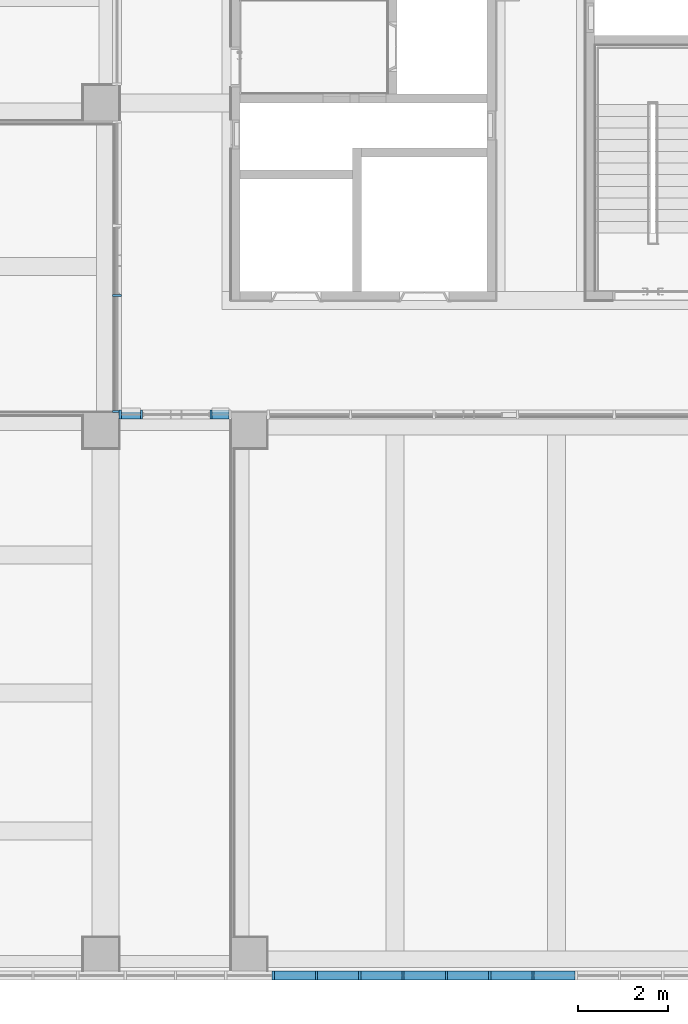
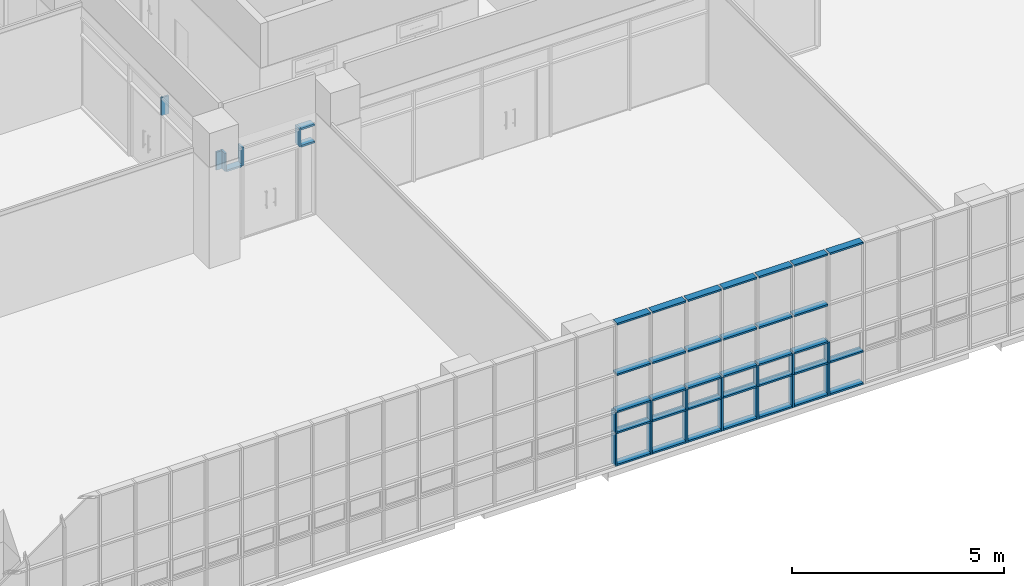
# One storey, part 15 of 76: 55 members, 3 elements without a shape of their own.
"""IFC2X3 building model written with IfcOpenShell, lengths in millimetres."""

from ifc_helpers import new_model, entity, si_unit, converted_unit, derived_unit, direction, frame, origin, origin_2d_with_axis, place, context, subcontext, project, spatial, rectangle, extrude, source, transform, mapped, material, type_object, type_shapes, element, aggregate, save


model = new_model("IFC2X3")

# Units and contexts
model_context = context("Model", 3, precision=0.01, world=origin(), true_north=direction((6.123031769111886e-17, 1.0)))
body_context = subcontext(model_context, "Body", "Model", "MODEL_VIEW")
ifc_project = project(units=[si_unit("LENGTHUNIT", "METRE", prefix="MILLI"), si_unit("AREAUNIT", "SQUARE_METRE"), si_unit("VOLUMEUNIT", "CUBIC_METRE"), converted_unit("PLANEANGLEUNIT", "DEGREE", entity("IfcRatioMeasure", 0.017453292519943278), si_unit("PLANEANGLEUNIT", "RADIAN"), dimensions=[0, 0, 0, 0, 0, 0, 0]), si_unit("MASSUNIT", "GRAM", prefix="KILO"), derived_unit("MASSDENSITYUNIT", [(si_unit("MASSUNIT", "GRAM", prefix="KILO"), 1), (si_unit("LENGTHUNIT", "METRE"), -3)]), derived_unit("MOMENTOFINERTIAUNIT", [(si_unit("LENGTHUNIT", "METRE"), 4)]), si_unit("TIMEUNIT", "SECOND"), si_unit("FREQUENCYUNIT", "HERTZ"), si_unit("THERMODYNAMICTEMPERATUREUNIT", "DEGREE_CELSIUS"), derived_unit("THERMALTRANSMITTANCEUNIT", [(si_unit("MASSUNIT", "GRAM", prefix="KILO"), 1), (si_unit("THERMODYNAMICTEMPERATUREUNIT", "KELVIN"), -1), (si_unit("TIMEUNIT", "SECOND"), -3)]), derived_unit("VOLUMETRICFLOWRATEUNIT", [(si_unit("LENGTHUNIT", "METRE"), 3), (si_unit("TIMEUNIT", "SECOND"), -1)]), derived_unit("MASSFLOWRATEUNIT", [(si_unit("MASSUNIT", "GRAM", prefix="KILO"), 1), (si_unit("TIMEUNIT", "SECOND"), -1)]), derived_unit("ROTATIONALFREQUENCYUNIT", [(si_unit("TIMEUNIT", "SECOND"), -1)]), si_unit("ELECTRICCURRENTUNIT", "AMPERE"), si_unit("ELECTRICVOLTAGEUNIT", "VOLT"), si_unit("POWERUNIT", "WATT"), si_unit("FORCEUNIT", "NEWTON", prefix="KILO"), si_unit("ILLUMINANCEUNIT", "LUX"), si_unit("LUMINOUSFLUXUNIT", "LUMEN"), si_unit("LUMINOUSINTENSITYUNIT", "CANDELA"), derived_unit("USERDEFINED", [(si_unit("MASSUNIT", "GRAM", prefix="KILO"), -1), (si_unit("LENGTHUNIT", "METRE"), -2), (si_unit("TIMEUNIT", "SECOND"), 3), (si_unit("LUMINOUSFLUXUNIT", "LUMEN"), 1)]), derived_unit("SOUNDPOWERUNIT", [(si_unit("MASSUNIT", "GRAM", prefix="KILO"), 1), (si_unit("LENGTHUNIT", "METRE"), 2), (si_unit("TIMEUNIT", "SECOND"), -3)]), derived_unit("SOUNDPRESSUREUNIT", [(si_unit("MASSUNIT", "GRAM", prefix="KILO"), 1), (si_unit("LENGTHUNIT", "METRE"), -1), (si_unit("TIMEUNIT", "SECOND"), -2)]), derived_unit("LINEARVELOCITYUNIT", [(si_unit("LENGTHUNIT", "METRE"), 1), (si_unit("TIMEUNIT", "SECOND"), -1)]), si_unit("PRESSUREUNIT", "PASCAL"), derived_unit("USERDEFINED", [(si_unit("LENGTHUNIT", "METRE"), -2), (si_unit("MASSUNIT", "GRAM", prefix="KILO"), 1), (si_unit("TIMEUNIT", "SECOND"), -2)]), derived_unit("LINEARFORCEUNIT", [(si_unit("MASSUNIT", "GRAM", prefix="KILO"), 1), (si_unit("LENGTHUNIT", "METRE"), 1), (si_unit("TIMEUNIT", "SECOND"), -2), (si_unit("LENGTHUNIT", "METRE"), -1)]), derived_unit("PLANARFORCEUNIT", [(si_unit("MASSUNIT", "GRAM", prefix="KILO"), 1), (si_unit("LENGTHUNIT", "METRE"), 1), (si_unit("TIMEUNIT", "SECOND"), -2), (si_unit("LENGTHUNIT", "METRE"), -2)])], contexts=[model_context])

# Site, building, storey
site_placement = place(None, frame((-14167.972527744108, -657.2125860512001, 0.0)))
site = spatial("IfcSite", under=ifc_project, at=site_placement, Name="Default", CompositionType="ELEMENT")
building_placement = place(site_placement, origin())
building = spatial("IfcBuilding", under=site, at=building_placement, Name="Sample Building", CompositionType="ELEMENT")
storey_placement = place(building_placement, frame((0.0, 0.0, 9300.0)))
storey = spatial("IfcBuildingStorey", under=building, at=storey_placement, Name="지상 3층", CompositionType="ELEMENT", Elevation=9300.000000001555)

# Curtain wall, members
curtain_wall_type = type_object("IfcCurtainWallType", Name="커튼월:CW112-스테인리스 스틸 커튼월", PredefinedType="NOTDEFINED")
curtain_wall_1_placement = place(storey_placement, frame((0.0, 0.0, -9300.0)))
curtain_wall_1 = element("IfcCurtainWall", 1, at=curtain_wall_1_placement, inside=storey, type_object=curtain_wall_type, Name="커튼월:CW112-스테인리스 스틸 커튼월", ObjectType="커튼월:CW112-스테인리스 스틸 커튼월")
ifc_material = material(Name="<Unnamed>")
member_type_1 = type_object("IfcMemberType", Name="직사각형 멀리언:CW200-직사각형 멀리언 50x200mm", PredefinedType="MULLION", material=ifc_material)
shared_shape_1 = source(origin(), body_context, "Body", "SweptSolid", [
    extrude(rectangle(XDim=200.0, YDim=50.0, at=origin_2d_with_axis()), frame((0.0, 0.0, -600.0), z_axis=(0.0, 0.0, 1.0), x_axis=(0.0, -1.0, 0.0)), (0.0, 0.0, 1.0), 600.0),
])
type_shapes(member_type_1, [shared_shape_1])
member_1_placement = place(curtain_wall_1_placement, frame((31005.156070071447, 507.2122951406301, 10330.0), z_axis=(0.0, 0.0, -1.0), x_axis=(1.0, 0.0, 0.0)))
member_1 = element("IfcMember", 2, at=member_1_placement, type_object=member_type_1, material=ifc_material, Name="직사각형 멀리언:CW200-직사각형 멀리언 50x200mm", ObjectType="직사각형 멀리언:CW200-직사각형 멀리언 50x200mm", context=body_context, shape_type="MappedRepresentation", body=[
    mapped(shared_shape_1, transform((0.0, 0.0, 0.0), scale=1.0)),
])
member_2_placement = place(curtain_wall_1_placement, frame((31970.156070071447, 507.21229514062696, 10330.0), z_axis=(0.0, 0.0, -1.0), x_axis=(1.0, 0.0, 0.0)))
member_2 = element("IfcMember", 3, at=member_2_placement, type_object=member_type_1, material=ifc_material, Name="직사각형 멀리언:CW200-직사각형 멀리언 50x200mm", ObjectType="직사각형 멀리언:CW200-직사각형 멀리언 50x200mm", context=body_context, shape_type="MappedRepresentation", body=[
    mapped(shared_shape_1, transform((0.0, 0.0, 0.0), scale=1.0)),
])
member_3_placement = place(curtain_wall_1_placement, frame((32935.156070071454, 507.2122951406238, 10330.0), z_axis=(0.0, 0.0, -1.0), x_axis=(1.0, 0.0, 0.0)))
member_3 = element("IfcMember", 4, at=member_3_placement, type_object=member_type_1, material=ifc_material, Name="직사각형 멀리언:CW200-직사각형 멀리언 50x200mm", ObjectType="직사각형 멀리언:CW200-직사각형 멀리언 50x200mm", context=body_context, shape_type="MappedRepresentation", body=[
    mapped(shared_shape_1, transform((0.0, 0.0, 0.0), scale=1.0)),
])
member_4_placement = place(curtain_wall_1_placement, frame((33900.156070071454, 507.2122951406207, 10330.0), z_axis=(0.0, 0.0, -1.0), x_axis=(1.0, 0.0, 0.0)))
member_4 = element("IfcMember", 5, at=member_4_placement, type_object=member_type_1, material=ifc_material, Name="직사각형 멀리언:CW200-직사각형 멀리언 50x200mm", ObjectType="직사각형 멀리언:CW200-직사각형 멀리언 50x200mm", context=body_context, shape_type="MappedRepresentation", body=[
    mapped(shared_shape_1, transform((0.0, 0.0, 0.0), scale=1.0)),
])
member_5_placement = place(curtain_wall_1_placement, frame((34865.156070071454, 507.2122951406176, 10330.0), z_axis=(0.0, 0.0, -1.0), x_axis=(1.0, 0.0, 0.0)))
member_5 = element("IfcMember", 6, at=member_5_placement, type_object=member_type_1, material=ifc_material, Name="직사각형 멀리언:CW200-직사각형 멀리언 50x200mm", ObjectType="직사각형 멀리언:CW200-직사각형 멀리언 50x200mm", context=body_context, shape_type="MappedRepresentation", body=[
    mapped(shared_shape_1, transform((0.0, 0.0, 0.0), scale=1.0)),
])
member_6_placement = place(curtain_wall_1_placement, frame((35830.156070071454, 507.21229514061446, 10330.0), z_axis=(0.0, 0.0, -1.0), x_axis=(1.0, 0.0, 0.0)))
member_6 = element("IfcMember", 7, at=member_6_placement, type_object=member_type_1, material=ifc_material, Name="직사각형 멀리언:CW200-직사각형 멀리언 50x200mm", ObjectType="직사각형 멀리언:CW200-직사각형 멀리언 50x200mm", context=body_context, shape_type="MappedRepresentation", body=[
    mapped(shared_shape_1, transform((0.0, 0.0, 0.0), scale=1.0)),
])
member_7_placement = place(curtain_wall_1_placement, frame((36795.156070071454, 507.21229514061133, 10330.0), z_axis=(0.0, 0.0, -1.0), x_axis=(1.0, 0.0, 0.0)))
member_7 = element("IfcMember", 8, at=member_7_placement, type_object=member_type_1, material=ifc_material, Name="직사각형 멀리언:CW200-직사각형 멀리언 50x200mm", ObjectType="직사각형 멀리언:CW200-직사각형 멀리언 50x200mm", context=body_context, shape_type="MappedRepresentation", body=[
    mapped(shared_shape_1, transform((0.0, 0.0, 0.0), scale=1.0)),
])

curtain_wall_2_placement = place(storey_placement, frame((0.0, 0.0, -9300.0)))
curtain_wall_2 = element("IfcCurtainWall", 9, at=curtain_wall_2_placement, inside=storey, type_object=curtain_wall_type, Name="커튼월:CW112-스테인리스 스틸 커튼월", ObjectType="커튼월:CW112-스테인리스 스틸 커튼월")
member_type_2 = type_object("IfcMemberType", Name="직사각형 멀리언:CW200-직사각형 멀리언 50x200mm", PredefinedType="MULLION", material=ifc_material)
shared_shape_2 = source(origin(), body_context, "Body", "SweptSolid", [
    extrude(rectangle(XDim=200.0, YDim=50.0, at=origin_2d_with_axis()), frame((-25.0, 0.0, -520.0), z_axis=(0.0, 0.0, 1.0), x_axis=(0.0, -1.0, 0.0)), (0.0, 0.0, 1.0), 520.0000000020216),
])
type_shapes(member_type_2, [shared_shape_2])
member_8_placement = place(curtain_wall_2_placement, frame((27522.955105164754, 13057.177624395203, 11480.0), z_axis=(0.0, 0.0, -1.0), x_axis=(0.0, -1.0, 0.0)))
member_8 = element("IfcMember", 10, at=member_8_placement, type_object=member_type_2, material=ifc_material, Name="직사각형 멀리언:CW200-직사각형 멀리언 50x200mm", ObjectType="직사각형 멀리언:CW200-직사각형 멀리언 50x200mm", context=body_context, shape_type="MappedRepresentation", body=[
    mapped(shared_shape_2, transform((0.0, 0.0, 0.0), scale=1.0)),
])
member_type_3 = type_object("IfcMemberType", Name="직사각형 멀리언:CW200-직사각형 멀리언 50x200mm", PredefinedType="MULLION", material=ifc_material)
shared_shape_3 = source(origin(), body_context, "Body", "SweptSolid", [
    extrude(rectangle(XDim=200.0, YDim=50.0, at=origin_2d_with_axis()), frame((0.0, 0.0, -520.0), z_axis=(0.0, 0.0, 1.0), x_axis=(0.0, -1.0, 0.0)), (0.0, 0.0, 1.0), 520.0000000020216),
])
type_shapes(member_type_3, [shared_shape_3])
member_9_placement = place(curtain_wall_2_placement, frame((27522.95510516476, 15667.17762439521, 11480.0), z_axis=(0.0, 0.0, -1.0), x_axis=(0.0, -1.0, 0.0)))
member_9 = element("IfcMember", 11, at=member_9_placement, type_object=member_type_3, material=ifc_material, Name="직사각형 멀리언:CW200-직사각형 멀리언 50x200mm", ObjectType="직사각형 멀리언:CW200-직사각형 멀리언 50x200mm", context=body_context, shape_type="MappedRepresentation", body=[
    mapped(shared_shape_3, transform((0.0, 0.0, 0.0), scale=1.0)),
])
aggregate(curtain_wall_2, [member_8, member_9])

curtain_wall_3_placement = place(storey_placement, frame((0.0, 0.0, -9300.0)))
curtain_wall_3 = element("IfcCurtainWall", 12, at=curtain_wall_3_placement, inside=storey, type_object=curtain_wall_type, Name="커튼월:CW112-스테인리스 스틸 커튼월", ObjectType="커튼월:CW112-스테인리스 스틸 커튼월")
member_type_4 = type_object("IfcMemberType", Name="직사각형 멀리언:CW200-직사각형 멀리언 50x200mm", PredefinedType="MULLION", material=ifc_material)
shared_shape_4 = source(origin(), body_context, "Body", "SweptSolid", [
    extrude(rectangle(XDim=200.0, YDim=50.0, at=origin_2d_with_axis()), frame((0.0, 0.0, -376.8466492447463), z_axis=(0.0, 0.0, 1.0), x_axis=(0.0, -1.0, 0.0)), (0.0, 0.0, 1.0), 376.8466492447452),
])
type_shapes(member_type_4, [shared_shape_4])
member_10_placement = place(curtain_wall_3_placement, frame((29641.1258144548, 13012.212307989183, 11480.0), z_axis=(-1.0, 0.0, 0.0), x_axis=(0.0, 0.0, 1.0)))
member_10 = element("IfcMember", 13, at=member_10_placement, type_object=member_type_4, material=ifc_material, Name="직사각형 멀리언:CW200-직사각형 멀리언 50x200mm", ObjectType="직사각형 멀리언:CW200-직사각형 멀리언 50x200mm", context=body_context, shape_type="MappedRepresentation", body=[
    mapped(shared_shape_4, transform((0.0, 0.0, 0.0), scale=1.0)),
])
member_type_5 = type_object("IfcMemberType", Name="직사각형 멀리언:CW200-직사각형 멀리언 50x200mm", PredefinedType="MULLION", material=ifc_material)
shared_shape_5 = source(origin(), body_context, "Body", "SweptSolid", [
    extrude(rectangle(XDim=200.0, YDim=50.0, at=origin_2d_with_axis()), frame((-25.0, 0.0, -376.8466492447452), z_axis=(0.0, 0.0, 1.0), x_axis=(0.0, -1.0, 0.0)), (0.0, 0.0, 1.0), 376.8466492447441),
])
type_shapes(member_type_5, [shared_shape_5])
member_11_placement = place(curtain_wall_3_placement, frame((29641.1258144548, 13012.212307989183, 12000.0), z_axis=(-1.0, 0.0, 0.0), x_axis=(0.0, 0.0, 1.0)))
member_11 = element("IfcMember", 14, at=member_11_placement, type_object=member_type_5, material=ifc_material, Name="직사각형 멀리언:CW200-직사각형 멀리언 50x200mm", ObjectType="직사각형 멀리언:CW200-직사각형 멀리언 50x200mm", context=body_context, shape_type="MappedRepresentation", body=[
    mapped(shared_shape_5, transform((0.0, 0.0, 0.0), scale=1.0)),
])
member_type_6 = type_object("IfcMemberType", Name="직사각형 멀리언:CW200-직사각형 멀리언 50x200mm", PredefinedType="MULLION", material=ifc_material)
shared_shape_6 = source(origin(), body_context, "Body", "SweptSolid", [
    extrude(rectangle(XDim=200.0, YDim=50.0, at=origin_2d_with_axis()), frame((0.0, 0.0, -423.1454999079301), z_axis=(0.0, 0.0, 1.0), x_axis=(0.0, -1.0, 0.0)), (0.0, 0.0, 1.0), 423.1454999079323),
])
type_shapes(member_type_6, [shared_shape_6])
member_12_placement = place(curtain_wall_3_placement, frame((27617.980314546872, 13012.212307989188, 11480.0), z_axis=(-1.0, 0.0, 0.0), x_axis=(0.0, 0.0, 1.0)))
member_12 = element("IfcMember", 15, at=member_12_placement, type_object=member_type_6, material=ifc_material, Name="직사각형 멀리언:CW200-직사각형 멀리언 50x200mm", ObjectType="직사각형 멀리언:CW200-직사각형 멀리언 50x200mm", context=body_context, shape_type="MappedRepresentation", body=[
    mapped(shared_shape_6, transform((0.0, 0.0, 0.0), scale=1.0)),
])
member_type_7 = type_object("IfcMemberType", Name="직사각형 멀리언:CW200-직사각형 멀리언 50x200mm", PredefinedType="MULLION", material=ifc_material)
shared_shape_7 = source(origin(), body_context, "Body", "SweptSolid", [
    extrude(rectangle(XDim=200.0, YDim=50.0, at=origin_2d_with_axis()), frame((-25.0, 0.0, -520.0), z_axis=(0.0, 0.0, 1.0), x_axis=(0.0, -1.0, 0.0)), (0.0, 0.0, 1.0), 520.0000000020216),
])
type_shapes(member_type_7, [shared_shape_7])
member_13_placement = place(curtain_wall_3_placement, frame((27567.98031454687, 13012.212307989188, 11480.0), z_axis=(0.0, 0.0, -1.0), x_axis=(-1.0, 0.0, 0.0)))
member_13 = element("IfcMember", 16, at=member_13_placement, type_object=member_type_7, material=ifc_material, Name="직사각형 멀리언:CW200-직사각형 멀리언 50x200mm", ObjectType="직사각형 멀리언:CW200-직사각형 멀리언 50x200mm", context=body_context, shape_type="MappedRepresentation", body=[
    mapped(shared_shape_7, transform((0.0, 0.0, 0.0), scale=1.0)),
])
member_type_8 = type_object("IfcMemberType", Name="직사각형 멀리언:CW200-직사각형 멀리언 50x200mm", PredefinedType="MULLION", material=ifc_material)
shared_shape_8 = source(origin(), body_context, "Body", "SweptSolid", [
    extrude(rectangle(XDim=200.0, YDim=50.0, at=origin_2d_with_axis()), frame((0.0, 0.0, -520.0), z_axis=(0.0, 0.0, 1.0), x_axis=(0.0, -1.0, 0.0)), (0.0, 0.0, 1.0), 520.0000000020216),
])
type_shapes(member_type_8, [shared_shape_8])
member_14_placement = place(curtain_wall_3_placement, frame((29616.1258144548, 13012.212307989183, 11480.0), z_axis=(0.0, 0.0, -1.0), x_axis=(-1.0, 0.0, 0.0)))
member_14 = element("IfcMember", 17, at=member_14_placement, type_object=member_type_8, material=ifc_material, Name="직사각형 멀리언:CW200-직사각형 멀리언 50x200mm", ObjectType="직사각형 멀리언:CW200-직사각형 멀리언 50x200mm", context=body_context, shape_type="MappedRepresentation", body=[
    mapped(shared_shape_8, transform((0.0, 0.0, 0.0), scale=1.0)),
])
member_15_placement = place(curtain_wall_3_placement, frame((28066.1258144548, 13012.212307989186, 11480.0), z_axis=(0.0, 0.0, -1.0), x_axis=(-1.0, 0.0, 0.0)))
member_15 = element("IfcMember", 18, at=member_15_placement, type_object=member_type_8, material=ifc_material, Name="직사각형 멀리언:CW200-직사각형 멀리언 50x200mm", ObjectType="직사각형 멀리언:CW200-직사각형 멀리언 50x200mm", context=body_context, shape_type="MappedRepresentation", body=[
    mapped(shared_shape_8, transform((0.0, 0.0, 0.0), scale=1.0)),
])
aggregate(curtain_wall_3, [member_13, member_10, member_11, member_14, member_12, member_15])

# Member
member_type_9 = type_object("IfcMemberType", Name="직사각형 멀리언:CW200-직사각형 멀리언 50x200mm", PredefinedType="MULLION", material=ifc_material)
shared_shape_9 = source(origin(), body_context, "Body", "SweptSolid", [
    extrude(rectangle(XDim=200.0, YDim=50.0, at=origin_2d_with_axis()), frame((0.0, 0.0, -950.0), z_axis=(0.0, 0.0, 1.0), x_axis=(0.0, -1.0, 0.0)), (0.0, 0.0, 1.0), 949.9999999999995),
])
type_shapes(member_type_9, [shared_shape_9])
member_16_placement = place(curtain_wall_1_placement, frame((31005.156070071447, 507.2122951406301, 9380.0), z_axis=(0.0, 0.0, -1.0), x_axis=(1.0, 0.0, 0.0)))
member_16 = element("IfcMember", 19, at=member_16_placement, type_object=member_type_9, material=ifc_material, Name="직사각형 멀리언:CW200-직사각형 멀리언 50x200mm", ObjectType="직사각형 멀리언:CW200-직사각형 멀리언 50x200mm", context=body_context, shape_type="MappedRepresentation", body=[
    mapped(shared_shape_9, transform((0.0, 0.0, 0.0), scale=1.0)),
])

member_17_placement = place(curtain_wall_1_placement, frame((31970.156070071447, 507.21229514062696, 9380.0), z_axis=(0.0, 0.0, -1.0), x_axis=(1.0, 0.0, 0.0)))
member_17 = element("IfcMember", 20, at=member_17_placement, type_object=member_type_9, material=ifc_material, Name="직사각형 멀리언:CW200-직사각형 멀리언 50x200mm", ObjectType="직사각형 멀리언:CW200-직사각형 멀리언 50x200mm", context=body_context, shape_type="MappedRepresentation", body=[
    mapped(shared_shape_9, transform((0.0, 0.0, 0.0), scale=1.0)),
])

member_18_placement = place(curtain_wall_1_placement, frame((32935.156070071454, 507.2122951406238, 9380.0), z_axis=(0.0, 0.0, -1.0), x_axis=(1.0, 0.0, 0.0)))
member_18 = element("IfcMember", 21, at=member_18_placement, type_object=member_type_9, material=ifc_material, Name="직사각형 멀리언:CW200-직사각형 멀리언 50x200mm", ObjectType="직사각형 멀리언:CW200-직사각형 멀리언 50x200mm", context=body_context, shape_type="MappedRepresentation", body=[
    mapped(shared_shape_9, transform((0.0, 0.0, 0.0), scale=1.0)),
])

member_19_placement = place(curtain_wall_1_placement, frame((33900.156070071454, 507.2122951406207, 9380.0), z_axis=(0.0, 0.0, -1.0), x_axis=(1.0, 0.0, 0.0)))
member_19 = element("IfcMember", 22, at=member_19_placement, type_object=member_type_9, material=ifc_material, Name="직사각형 멀리언:CW200-직사각형 멀리언 50x200mm", ObjectType="직사각형 멀리언:CW200-직사각형 멀리언 50x200mm", context=body_context, shape_type="MappedRepresentation", body=[
    mapped(shared_shape_9, transform((0.0, 0.0, 0.0), scale=1.0)),
])

member_20_placement = place(curtain_wall_1_placement, frame((34865.156070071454, 507.2122951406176, 9380.0), z_axis=(0.0, 0.0, -1.0), x_axis=(1.0, 0.0, 0.0)))
member_20 = element("IfcMember", 23, at=member_20_placement, type_object=member_type_9, material=ifc_material, Name="직사각형 멀리언:CW200-직사각형 멀리언 50x200mm", ObjectType="직사각형 멀리언:CW200-직사각형 멀리언 50x200mm", context=body_context, shape_type="MappedRepresentation", body=[
    mapped(shared_shape_9, transform((0.0, 0.0, 0.0), scale=1.0)),
])

member_21_placement = place(curtain_wall_1_placement, frame((35830.156070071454, 507.21229514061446, 9380.0), z_axis=(0.0, 0.0, -1.0), x_axis=(1.0, 0.0, 0.0)))
member_21 = element("IfcMember", 24, at=member_21_placement, type_object=member_type_9, material=ifc_material, Name="직사각형 멀리언:CW200-직사각형 멀리언 50x200mm", ObjectType="직사각형 멀리언:CW200-직사각형 멀리언 50x200mm", context=body_context, shape_type="MappedRepresentation", body=[
    mapped(shared_shape_9, transform((0.0, 0.0, 0.0), scale=1.0)),
])

member_22_placement = place(curtain_wall_1_placement, frame((36795.156070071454, 507.21229514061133, 9380.0), z_axis=(0.0, 0.0, -1.0), x_axis=(1.0, 0.0, 0.0)))
member_22 = element("IfcMember", 25, at=member_22_placement, type_object=member_type_9, material=ifc_material, Name="직사각형 멀리언:CW200-직사각형 멀리언 50x200mm", ObjectType="직사각형 멀리언:CW200-직사각형 멀리언 50x200mm", context=body_context, shape_type="MappedRepresentation", body=[
    mapped(shared_shape_9, transform((0.0, 0.0, 0.0), scale=1.0)),
])

member_type_10 = type_object("IfcMemberType", Name="직사각형 멀리언:CW200-직사각형 멀리언 50x200mm", PredefinedType="MULLION", material=ifc_material)
shared_shape_10 = source(origin(), body_context, "Body", "SweptSolid", [
    extrude(rectangle(XDim=200.0, YDim=50.0, at=origin_2d_with_axis()), frame((-25.0, 0.0, -915.0), z_axis=(0.0, 0.0, 1.0), x_axis=(0.0, -1.0, 0.0)), (0.0, 0.0, 1.0), 914.9999999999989),
])
type_shapes(member_type_10, [shared_shape_10])
member_23_placement = place(curtain_wall_1_placement, frame((31030.156070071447, 507.21229514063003, 9380.0), z_axis=(-1.0, 0.0, 0.0), x_axis=(0.0, 0.0, -1.0)))
member_23 = element("IfcMember", 26, at=member_23_placement, type_object=member_type_10, material=ifc_material, Name="직사각형 멀리언:CW200-직사각형 멀리언 50x200mm", ObjectType="직사각형 멀리언:CW200-직사각형 멀리언 50x200mm", context=body_context, shape_type="MappedRepresentation", body=[
    mapped(shared_shape_10, transform((0.0, 0.0, 0.0), scale=1.0)),
])

member_24_placement = place(curtain_wall_1_placement, frame((31995.156070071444, 507.2122951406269, 9380.0), z_axis=(-1.0, 0.0, 0.0), x_axis=(0.0, 0.0, -1.0)))
member_24 = element("IfcMember", 27, at=member_24_placement, type_object=member_type_10, material=ifc_material, Name="직사각형 멀리언:CW200-직사각형 멀리언 50x200mm", ObjectType="직사각형 멀리언:CW200-직사각형 멀리언 50x200mm", context=body_context, shape_type="MappedRepresentation", body=[
    mapped(shared_shape_10, transform((0.0, 0.0, 0.0), scale=1.0)),
])

member_25_placement = place(curtain_wall_1_placement, frame((32960.15607007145, 507.2122951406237, 9380.0), z_axis=(-1.0, 0.0, 0.0), x_axis=(0.0, 0.0, -1.0)))
member_25 = element("IfcMember", 28, at=member_25_placement, type_object=member_type_10, material=ifc_material, Name="직사각형 멀리언:CW200-직사각형 멀리언 50x200mm", ObjectType="직사각형 멀리언:CW200-직사각형 멀리언 50x200mm", context=body_context, shape_type="MappedRepresentation", body=[
    mapped(shared_shape_10, transform((0.0, 0.0, 0.0), scale=1.0)),
])

member_26_placement = place(curtain_wall_1_placement, frame((33925.156070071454, 507.21229514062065, 9380.0), z_axis=(-1.0, 0.0, 0.0), x_axis=(0.0, 0.0, -1.0)))
member_26 = element("IfcMember", 29, at=member_26_placement, type_object=member_type_10, material=ifc_material, Name="직사각형 멀리언:CW200-직사각형 멀리언 50x200mm", ObjectType="직사각형 멀리언:CW200-직사각형 멀리언 50x200mm", context=body_context, shape_type="MappedRepresentation", body=[
    mapped(shared_shape_10, transform((0.0, 0.0, 0.0), scale=1.0)),
])

member_27_placement = place(curtain_wall_1_placement, frame((34890.156070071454, 507.2122951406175, 9380.0), z_axis=(-1.0, 0.0, 0.0), x_axis=(0.0, 0.0, -1.0)))
member_27 = element("IfcMember", 30, at=member_27_placement, type_object=member_type_10, material=ifc_material, Name="직사각형 멀리언:CW200-직사각형 멀리언 50x200mm", ObjectType="직사각형 멀리언:CW200-직사각형 멀리언 50x200mm", context=body_context, shape_type="MappedRepresentation", body=[
    mapped(shared_shape_10, transform((0.0, 0.0, 0.0), scale=1.0)),
])

member_28_placement = place(curtain_wall_1_placement, frame((35855.156070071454, 507.2122951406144, 9380.0), z_axis=(-1.0, 0.0, 0.0), x_axis=(0.0, 0.0, -1.0)))
member_28 = element("IfcMember", 31, at=member_28_placement, type_object=member_type_10, material=ifc_material, Name="직사각형 멀리언:CW200-직사각형 멀리언 50x200mm", ObjectType="직사각형 멀리언:CW200-직사각형 멀리언 50x200mm", context=body_context, shape_type="MappedRepresentation", body=[
    mapped(shared_shape_10, transform((0.0, 0.0, 0.0), scale=1.0)),
])

member_29_placement = place(curtain_wall_1_placement, frame((36820.156070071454, 507.2122951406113, 9380.0), z_axis=(-1.0, 0.0, 0.0), x_axis=(0.0, 0.0, -1.0)))
member_29 = element("IfcMember", 32, at=member_29_placement, type_object=member_type_10, material=ifc_material, Name="직사각형 멀리언:CW200-직사각형 멀리언 50x200mm", ObjectType="직사각형 멀리언:CW200-직사각형 멀리언 50x200mm", context=body_context, shape_type="MappedRepresentation", body=[
    mapped(shared_shape_10, transform((0.0, 0.0, 0.0), scale=1.0)),
])

member_type_11 = type_object("IfcMemberType", Name="직사각형 멀리언:CW200-직사각형 멀리언 50x200mm", PredefinedType="MULLION", material=ifc_material)
shared_shape_11 = source(origin(), body_context, "Body", "SweptSolid", [
    extrude(rectangle(XDim=200.0, YDim=50.0, at=origin_2d_with_axis()), frame((0.0, 0.0, -915.0), z_axis=(0.0, 0.0, 1.0), x_axis=(0.0, -1.0, 0.0)), (0.0, 0.0, 1.0), 915.000000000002),
])
type_shapes(member_type_11, [shared_shape_11])
member_30_placement = place(curtain_wall_1_placement, frame((31945.156070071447, 507.2122951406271, 10330.0), z_axis=(1.0, 0.0, 0.0), x_axis=(0.0, 0.0, 1.0)))
member_30 = element("IfcMember", 33, at=member_30_placement, type_object=member_type_11, material=ifc_material, Name="직사각형 멀리언:CW200-직사각형 멀리언 50x200mm", ObjectType="직사각형 멀리언:CW200-직사각형 멀리언 50x200mm", context=body_context, shape_type="MappedRepresentation", body=[
    mapped(shared_shape_11, transform((0.0, 0.0, 0.0), scale=1.0)),
])

member_31_placement = place(curtain_wall_1_placement, frame((32910.156070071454, 507.2122951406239, 10330.0), z_axis=(1.0, 0.0, 0.0), x_axis=(0.0, 0.0, 1.0)))
member_31 = element("IfcMember", 34, at=member_31_placement, type_object=member_type_11, material=ifc_material, Name="직사각형 멀리언:CW200-직사각형 멀리언 50x200mm", ObjectType="직사각형 멀리언:CW200-직사각형 멀리언 50x200mm", context=body_context, shape_type="MappedRepresentation", body=[
    mapped(shared_shape_11, transform((0.0, 0.0, 0.0), scale=1.0)),
])

member_32_placement = place(curtain_wall_1_placement, frame((33875.15607007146, 507.21229514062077, 10330.0), z_axis=(1.0, 0.0, 0.0), x_axis=(0.0, 0.0, 1.0)))
member_32 = element("IfcMember", 35, at=member_32_placement, type_object=member_type_11, material=ifc_material, Name="직사각형 멀리언:CW200-직사각형 멀리언 50x200mm", ObjectType="직사각형 멀리언:CW200-직사각형 멀리언 50x200mm", context=body_context, shape_type="MappedRepresentation", body=[
    mapped(shared_shape_11, transform((0.0, 0.0, 0.0), scale=1.0)),
])

member_33_placement = place(curtain_wall_1_placement, frame((34840.156070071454, 507.21229514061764, 10330.0), z_axis=(1.0, 0.0, 0.0), x_axis=(0.0, 0.0, 1.0)))
member_33 = element("IfcMember", 36, at=member_33_placement, type_object=member_type_11, material=ifc_material, Name="직사각형 멀리언:CW200-직사각형 멀리언 50x200mm", ObjectType="직사각형 멀리언:CW200-직사각형 멀리언 50x200mm", context=body_context, shape_type="MappedRepresentation", body=[
    mapped(shared_shape_11, transform((0.0, 0.0, 0.0), scale=1.0)),
])

member_34_placement = place(curtain_wall_1_placement, frame((35805.156070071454, 507.2122951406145, 10330.0), z_axis=(1.0, 0.0, 0.0), x_axis=(0.0, 0.0, 1.0)))
member_34 = element("IfcMember", 37, at=member_34_placement, type_object=member_type_11, material=ifc_material, Name="직사각형 멀리언:CW200-직사각형 멀리언 50x200mm", ObjectType="직사각형 멀리언:CW200-직사각형 멀리언 50x200mm", context=body_context, shape_type="MappedRepresentation", body=[
    mapped(shared_shape_11, transform((0.0, 0.0, 0.0), scale=1.0)),
])

member_35_placement = place(curtain_wall_1_placement, frame((36770.15607007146, 507.21229514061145, 10330.0), z_axis=(1.0, 0.0, 0.0), x_axis=(0.0, 0.0, 1.0)))
member_35 = element("IfcMember", 38, at=member_35_placement, type_object=member_type_11, material=ifc_material, Name="직사각형 멀리언:CW200-직사각형 멀리언 50x200mm", ObjectType="직사각형 멀리언:CW200-직사각형 멀리언 50x200mm", context=body_context, shape_type="MappedRepresentation", body=[
    mapped(shared_shape_11, transform((0.0, 0.0, 0.0), scale=1.0)),
])

member_36_placement = place(curtain_wall_1_placement, frame((37735.15607007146, 507.2122951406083, 10330.0), z_axis=(1.0, 0.0, 0.0), x_axis=(0.0, 0.0, 1.0)))
member_36 = element("IfcMember", 39, at=member_36_placement, type_object=member_type_11, material=ifc_material, Name="직사각형 멀리언:CW200-직사각형 멀리언 50x200mm", ObjectType="직사각형 멀리언:CW200-직사각형 멀리언 50x200mm", context=body_context, shape_type="MappedRepresentation", body=[
    mapped(shared_shape_11, transform((0.0, 0.0, 0.0), scale=1.0)),
])

member_37_placement = place(curtain_wall_1_placement, frame((31945.156070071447, 507.2122951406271, 10930.0), z_axis=(1.0, 0.0, 0.0), x_axis=(0.0, 0.0, 1.0)))
member_37 = element("IfcMember", 40, at=member_37_placement, type_object=member_type_11, material=ifc_material, Name="직사각형 멀리언:CW200-직사각형 멀리언 50x200mm", ObjectType="직사각형 멀리언:CW200-직사각형 멀리언 50x200mm", context=body_context, shape_type="MappedRepresentation", body=[
    mapped(shared_shape_11, transform((0.0, 0.0, 0.0), scale=1.0)),
])

member_38_placement = place(curtain_wall_1_placement, frame((32910.156070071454, 507.2122951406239, 10930.0), z_axis=(1.0, 0.0, 0.0), x_axis=(0.0, 0.0, 1.0)))
member_38 = element("IfcMember", 41, at=member_38_placement, type_object=member_type_11, material=ifc_material, Name="직사각형 멀리언:CW200-직사각형 멀리언 50x200mm", ObjectType="직사각형 멀리언:CW200-직사각형 멀리언 50x200mm", context=body_context, shape_type="MappedRepresentation", body=[
    mapped(shared_shape_11, transform((0.0, 0.0, 0.0), scale=1.0)),
])

member_39_placement = place(curtain_wall_1_placement, frame((33875.15607007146, 507.21229514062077, 10930.0), z_axis=(1.0, 0.0, 0.0), x_axis=(0.0, 0.0, 1.0)))
member_39 = element("IfcMember", 42, at=member_39_placement, type_object=member_type_11, material=ifc_material, Name="직사각형 멀리언:CW200-직사각형 멀리언 50x200mm", ObjectType="직사각형 멀리언:CW200-직사각형 멀리언 50x200mm", context=body_context, shape_type="MappedRepresentation", body=[
    mapped(shared_shape_11, transform((0.0, 0.0, 0.0), scale=1.0)),
])

member_40_placement = place(curtain_wall_1_placement, frame((34840.156070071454, 507.21229514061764, 10930.0), z_axis=(1.0, 0.0, 0.0), x_axis=(0.0, 0.0, 1.0)))
member_40 = element("IfcMember", 43, at=member_40_placement, type_object=member_type_11, material=ifc_material, Name="직사각형 멀리언:CW200-직사각형 멀리언 50x200mm", ObjectType="직사각형 멀리언:CW200-직사각형 멀리언 50x200mm", context=body_context, shape_type="MappedRepresentation", body=[
    mapped(shared_shape_11, transform((0.0, 0.0, 0.0), scale=1.0)),
])

member_41_placement = place(curtain_wall_1_placement, frame((35805.156070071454, 507.2122951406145, 10930.0), z_axis=(1.0, 0.0, 0.0), x_axis=(0.0, 0.0, 1.0)))
member_41 = element("IfcMember", 44, at=member_41_placement, type_object=member_type_11, material=ifc_material, Name="직사각형 멀리언:CW200-직사각형 멀리언 50x200mm", ObjectType="직사각형 멀리언:CW200-직사각형 멀리언 50x200mm", context=body_context, shape_type="MappedRepresentation", body=[
    mapped(shared_shape_11, transform((0.0, 0.0, 0.0), scale=1.0)),
])

member_42_placement = place(curtain_wall_1_placement, frame((36770.15607007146, 507.21229514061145, 10930.0), z_axis=(1.0, 0.0, 0.0), x_axis=(0.0, 0.0, 1.0)))
member_42 = element("IfcMember", 45, at=member_42_placement, type_object=member_type_11, material=ifc_material, Name="직사각형 멀리언:CW200-직사각형 멀리언 50x200mm", ObjectType="직사각형 멀리언:CW200-직사각형 멀리언 50x200mm", context=body_context, shape_type="MappedRepresentation", body=[
    mapped(shared_shape_11, transform((0.0, 0.0, 0.0), scale=1.0)),
])

member_43_placement = place(curtain_wall_1_placement, frame((31945.156070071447, 507.2122951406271, 12000.0), z_axis=(1.0, 0.0, 0.0), x_axis=(0.0, 0.0, 1.0)))
member_43 = element("IfcMember", 46, at=member_43_placement, type_object=member_type_11, material=ifc_material, Name="직사각형 멀리언:CW200-직사각형 멀리언 50x200mm", ObjectType="직사각형 멀리언:CW200-직사각형 멀리언 50x200mm", context=body_context, shape_type="MappedRepresentation", body=[
    mapped(shared_shape_11, transform((0.0, 0.0, 0.0), scale=1.0)),
])

member_44_placement = place(curtain_wall_1_placement, frame((32910.156070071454, 507.2122951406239, 12000.0), z_axis=(1.0, 0.0, 0.0), x_axis=(0.0, 0.0, 1.0)))
member_44 = element("IfcMember", 47, at=member_44_placement, type_object=member_type_11, material=ifc_material, Name="직사각형 멀리언:CW200-직사각형 멀리언 50x200mm", ObjectType="직사각형 멀리언:CW200-직사각형 멀리언 50x200mm", context=body_context, shape_type="MappedRepresentation", body=[
    mapped(shared_shape_11, transform((0.0, 0.0, 0.0), scale=1.0)),
])

member_45_placement = place(curtain_wall_1_placement, frame((33875.15607007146, 507.21229514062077, 12000.0), z_axis=(1.0, 0.0, 0.0), x_axis=(0.0, 0.0, 1.0)))
member_45 = element("IfcMember", 48, at=member_45_placement, type_object=member_type_11, material=ifc_material, Name="직사각형 멀리언:CW200-직사각형 멀리언 50x200mm", ObjectType="직사각형 멀리언:CW200-직사각형 멀리언 50x200mm", context=body_context, shape_type="MappedRepresentation", body=[
    mapped(shared_shape_11, transform((0.0, 0.0, 0.0), scale=1.0)),
])

member_46_placement = place(curtain_wall_1_placement, frame((34840.156070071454, 507.21229514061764, 12000.0), z_axis=(1.0, 0.0, 0.0), x_axis=(0.0, 0.0, 1.0)))
member_46 = element("IfcMember", 49, at=member_46_placement, type_object=member_type_11, material=ifc_material, Name="직사각형 멀리언:CW200-직사각형 멀리언 50x200mm", ObjectType="직사각형 멀리언:CW200-직사각형 멀리언 50x200mm", context=body_context, shape_type="MappedRepresentation", body=[
    mapped(shared_shape_11, transform((0.0, 0.0, 0.0), scale=1.0)),
])

member_47_placement = place(curtain_wall_1_placement, frame((35805.156070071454, 507.2122951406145, 12000.0), z_axis=(1.0, 0.0, 0.0), x_axis=(0.0, 0.0, 1.0)))
member_47 = element("IfcMember", 50, at=member_47_placement, type_object=member_type_11, material=ifc_material, Name="직사각형 멀리언:CW200-직사각형 멀리언 50x200mm", ObjectType="직사각형 멀리언:CW200-직사각형 멀리언 50x200mm", context=body_context, shape_type="MappedRepresentation", body=[
    mapped(shared_shape_11, transform((0.0, 0.0, 0.0), scale=1.0)),
])

member_48_placement = place(curtain_wall_1_placement, frame((36770.15607007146, 507.21229514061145, 12000.0), z_axis=(1.0, 0.0, 0.0), x_axis=(0.0, 0.0, 1.0)))
member_48 = element("IfcMember", 51, at=member_48_placement, type_object=member_type_11, material=ifc_material, Name="직사각형 멀리언:CW200-직사각형 멀리언 50x200mm", ObjectType="직사각형 멀리언:CW200-직사각형 멀리언 50x200mm", context=body_context, shape_type="MappedRepresentation", body=[
    mapped(shared_shape_11, transform((0.0, 0.0, 0.0), scale=1.0)),
])

member_type_12 = type_object("IfcMemberType", Name="직사각형 멀리언:CW200-직사각형 멀리언 50x200mm", PredefinedType="MULLION", material=ifc_material)
shared_shape_12 = source(origin(), body_context, "Body", "SweptSolid", [
    extrude(rectangle(XDim=200.0, YDim=50.0, at=origin_2d_with_axis()), frame((-25.0, 0.0, -915.0), z_axis=(0.0, 0.0, 1.0), x_axis=(0.0, -1.0, 0.0)), (0.0, 0.0, 1.0), 914.9999999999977),
])
type_shapes(member_type_12, [shared_shape_12])
member_49_placement = place(curtain_wall_1_placement, frame((31945.156070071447, 507.2122951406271, 13480.0), z_axis=(1.0, 0.0, 0.0), x_axis=(0.0, 0.0, 1.0)))
member_49 = element("IfcMember", 52, at=member_49_placement, type_object=member_type_12, material=ifc_material, Name="직사각형 멀리언:CW200-직사각형 멀리언 50x200mm", ObjectType="직사각형 멀리언:CW200-직사각형 멀리언 50x200mm", context=body_context, shape_type="MappedRepresentation", body=[
    mapped(shared_shape_12, transform((0.0, 0.0, 0.0), scale=1.0)),
])

member_50_placement = place(curtain_wall_1_placement, frame((32910.156070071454, 507.2122951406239, 13480.0), z_axis=(1.0, 0.0, 0.0), x_axis=(0.0, 0.0, 1.0)))
member_50 = element("IfcMember", 53, at=member_50_placement, type_object=member_type_12, material=ifc_material, Name="직사각형 멀리언:CW200-직사각형 멀리언 50x200mm", ObjectType="직사각형 멀리언:CW200-직사각형 멀리언 50x200mm", context=body_context, shape_type="MappedRepresentation", body=[
    mapped(shared_shape_12, transform((0.0, 0.0, 0.0), scale=1.0)),
])

member_51_placement = place(curtain_wall_1_placement, frame((33875.15607007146, 507.21229514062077, 13480.0), z_axis=(1.0, 0.0, 0.0), x_axis=(0.0, 0.0, 1.0)))
member_51 = element("IfcMember", 54, at=member_51_placement, type_object=member_type_12, material=ifc_material, Name="직사각형 멀리언:CW200-직사각형 멀리언 50x200mm", ObjectType="직사각형 멀리언:CW200-직사각형 멀리언 50x200mm", context=body_context, shape_type="MappedRepresentation", body=[
    mapped(shared_shape_12, transform((0.0, 0.0, 0.0), scale=1.0)),
])

member_52_placement = place(curtain_wall_1_placement, frame((34840.156070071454, 507.21229514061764, 13480.0), z_axis=(1.0, 0.0, 0.0), x_axis=(0.0, 0.0, 1.0)))
member_52 = element("IfcMember", 55, at=member_52_placement, type_object=member_type_12, material=ifc_material, Name="직사각형 멀리언:CW200-직사각형 멀리언 50x200mm", ObjectType="직사각형 멀리언:CW200-직사각형 멀리언 50x200mm", context=body_context, shape_type="MappedRepresentation", body=[
    mapped(shared_shape_12, transform((0.0, 0.0, 0.0), scale=1.0)),
])

member_53_placement = place(curtain_wall_1_placement, frame((35805.156070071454, 507.2122951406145, 13480.0), z_axis=(1.0, 0.0, 0.0), x_axis=(0.0, 0.0, 1.0)))
member_53 = element("IfcMember", 56, at=member_53_placement, type_object=member_type_12, material=ifc_material, Name="직사각형 멀리언:CW200-직사각형 멀리언 50x200mm", ObjectType="직사각형 멀리언:CW200-직사각형 멀리언 50x200mm", context=body_context, shape_type="MappedRepresentation", body=[
    mapped(shared_shape_12, transform((0.0, 0.0, 0.0), scale=1.0)),
])

member_54_placement = place(curtain_wall_1_placement, frame((36770.156070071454, 507.21229514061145, 13480.0), z_axis=(1.0, 0.0, 0.0), x_axis=(0.0, 0.0, 1.0)))
member_54 = element("IfcMember", 57, at=member_54_placement, type_object=member_type_12, material=ifc_material, Name="직사각형 멀리언:CW200-직사각형 멀리언 50x200mm", ObjectType="직사각형 멀리언:CW200-직사각형 멀리언 50x200mm", context=body_context, shape_type="MappedRepresentation", body=[
    mapped(shared_shape_12, transform((0.0, 0.0, 0.0), scale=1.0)),
])

member_55_placement = place(curtain_wall_1_placement, frame((37735.15607007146, 507.2122951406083, 13480.0), z_axis=(1.0, 0.0, 0.0), x_axis=(0.0, 0.0, 1.0)))
member_55 = element("IfcMember", 58, at=member_55_placement, type_object=member_type_12, material=ifc_material, Name="직사각형 멀리언:CW200-직사각형 멀리언 50x200mm", ObjectType="직사각형 멀리언:CW200-직사각형 멀리언 50x200mm", context=body_context, shape_type="MappedRepresentation", body=[
    mapped(shared_shape_12, transform((0.0, 0.0, 0.0), scale=1.0)),
])

aggregate(curtain_wall_1, [member_49, member_50, member_51, member_52, member_53, member_54, member_55, member_23, member_24, member_25, member_26, member_27, member_28, member_29, member_30, member_31, member_32, member_33, member_34, member_35, member_36, member_37, member_38, member_39, member_40, member_41, member_42, member_43, member_44, member_45, member_46, member_47, member_48, member_16, member_17, member_18, member_19, member_20, member_21, member_22, member_1, member_2, member_3, member_4, member_5, member_6, member_7])

save(model, "model.ifc")
